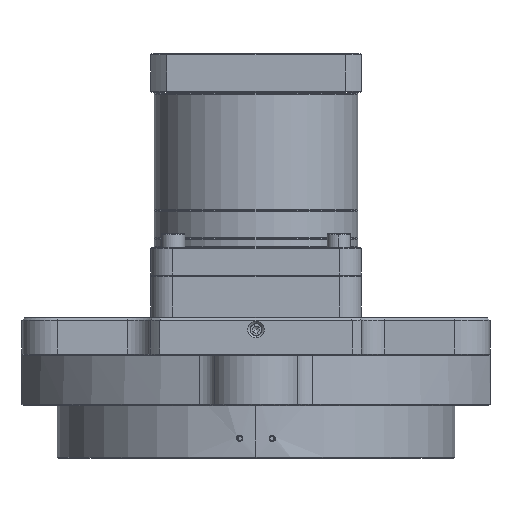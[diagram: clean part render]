
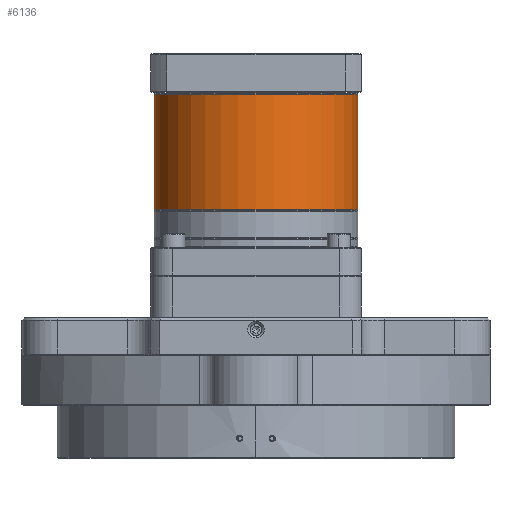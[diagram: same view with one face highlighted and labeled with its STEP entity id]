
A CAD part, front view. The second image highlights one B-rep face of the part: STEP entity #6136.
In plain terms, the highlighted cylindrical face has radius 43.5 mm (diameter 87 mm), a partial arc.
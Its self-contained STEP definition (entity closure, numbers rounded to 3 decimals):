
#67 = DIRECTION ( 'NONE',  ( 0., 0., -1. ) ) ;
#96 = DIRECTION ( 'NONE',  ( -1., 0., 0. ) ) ;
#109 = CARTESIAN_POINT ( 'NONE',  ( 0., -100., 45.9 ) ) ;
#2300 = EDGE_LOOP ( 'NONE', ( #11676, #11693, #11716, #11732 ) ) ;
#6136 = ADVANCED_FACE ( 'NONE', ( #8922 ), #8928, .T. ) ;
#6734 = AXIS2_PLACEMENT_3D ( 'NONE', #109, #67, #96 ) ;
#8922 = FACE_OUTER_BOUND ( 'NONE', #2300, .T. ) ;
#8928 = CYLINDRICAL_SURFACE ( 'NONE', #6734, 43.5 ) ;
#10077 = CARTESIAN_POINT ( 'NONE',  ( -43.5, -100., 95.6 ) ) ;
#10221 = CARTESIAN_POINT ( 'NONE',  ( 43.5, -100., 95.6 ) ) ;
#10255 = CARTESIAN_POINT ( 'NONE',  ( -43.5, -100., 46.2 ) ) ;
#10288 = CARTESIAN_POINT ( 'NONE',  ( 43.5, -100., 46.2 ) ) ;
#11676 = ORIENTED_EDGE ( 'NONE', *, *, #21632, .F. ) ;
#11693 = ORIENTED_EDGE ( 'NONE', *, *, #21633, .T. ) ;
#11716 = ORIENTED_EDGE ( 'NONE', *, *, #21637, .T. ) ;
#11732 = ORIENTED_EDGE ( 'NONE', *, *, #21700, .F. ) ;
#16227 = CARTESIAN_POINT ( 'NONE',  ( 43.5, -100., 45.9 ) ) ;
#16230 = DIRECTION ( 'NONE',  ( 0., 0., -1. ) ) ;
#16256 = DIRECTION ( 'NONE',  ( -1., 0., 0. ) ) ;
#16260 = DIRECTION ( 'NONE',  ( 0., 0., -1. ) ) ;
#16261 = CARTESIAN_POINT ( 'NONE',  ( -43.5, -100., 45.9 ) ) ;
#16271 = CARTESIAN_POINT ( 'NONE',  ( 0., -100., 95.6 ) ) ;
#16275 = DIRECTION ( 'NONE',  ( 0., 0., -1. ) ) ;
#16500 = CARTESIAN_POINT ( 'NONE',  ( 0., -100., 46.2 ) ) ;
#16507 = DIRECTION ( 'NONE',  ( 0., 0., -1. ) ) ;
#16530 = DIRECTION ( 'NONE',  ( -1., 0., 0. ) ) ;
#17150 = LINE ( 'NONE', #16261, #17154 ) ;
#17154 = VECTOR ( 'NONE', #16260, 1000. ) ;
#17165 = CIRCLE ( 'NONE', #29294, 43.5 ) ;
#17178 = LINE ( 'NONE', #16227, #17193 ) ;
#17193 = VECTOR ( 'NONE', #16230, 1000. ) ;
#17251 = CIRCLE ( 'NONE', #29261, 43.5 ) ;
#21632 = EDGE_CURVE ( 'NONE', #23661, #23606, #17178, .T. ) ;
#21633 = EDGE_CURVE ( 'NONE', #23661, #23561, #17165, .T. ) ;
#21637 = EDGE_CURVE ( 'NONE', #23561, #23634, #17150, .T. ) ;
#21700 = EDGE_CURVE ( 'NONE', #23606, #23634, #17251, .T. ) ;
#23561 = VERTEX_POINT ( 'NONE', #10077 ) ;
#23606 = VERTEX_POINT ( 'NONE', #10288 ) ;
#23634 = VERTEX_POINT ( 'NONE', #10255 ) ;
#23661 = VERTEX_POINT ( 'NONE', #10221 ) ;
#29261 = AXIS2_PLACEMENT_3D ( 'NONE', #16500, #16507, #16530 ) ;
#29294 = AXIS2_PLACEMENT_3D ( 'NONE', #16271, #16275, #16256 ) ;
